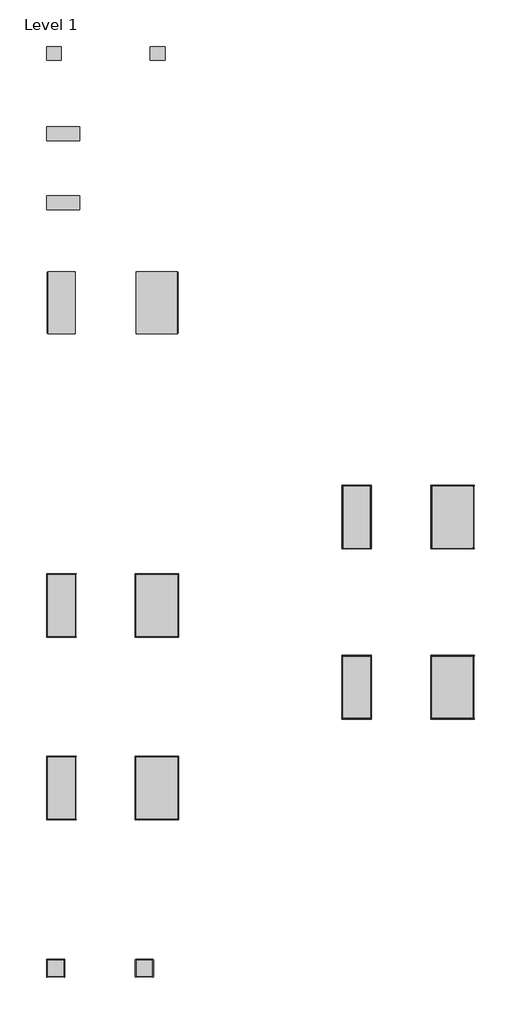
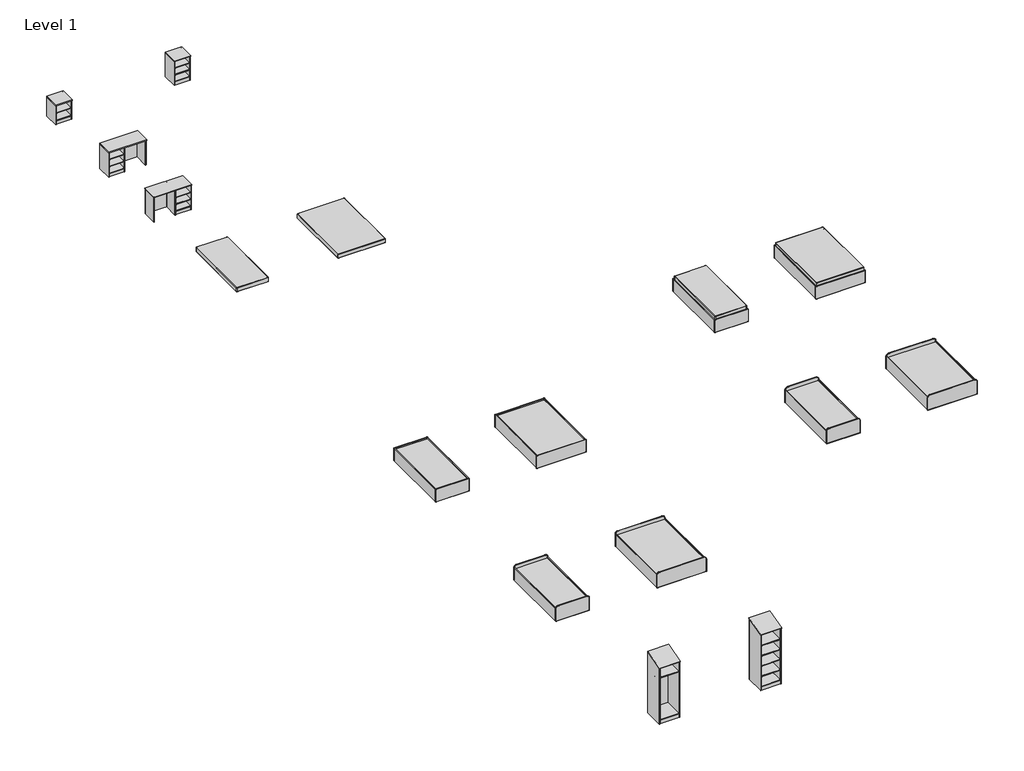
# One storey, incomplete: 18 furniture elements.
"""IFC4 building model written with IfcOpenShell, lengths in millimetres."""

from ifc_helpers import new_model, si_unit, origin, place, context, project, spatial, transform, mapped, element, save
from components import sf36805_100d38df, sf54805_bda6a78f, slc124_b616c2b7, slc130_283974c0, slc330_f4d9fcbc, slc340_fd4518d1, slc410_l_095e2484, slc410_r_ae9c953f, slc500_fc7dbef7, slc550_b5a2f631, slc600_16307067, slc650_620ad227

model = new_model("IFC4")

# Units and contexts
model_context = context("Model", 3, world=origin())
ifc_project = project(units=[si_unit("LENGTHUNIT", "METRE", prefix="MILLI")], contexts=[model_context])

# Site, building, storey
site = spatial("IfcSite", under=ifc_project)
building = spatial("IfcBuilding", under=site)
storey = spatial("IfcBuildingStorey", under=building, Name="Level 1", Elevation=0.0)

# Furniture
placement = place(None, origin())
sf36805_shape = sf36805_100d38df(model_context)
element("IfcFurniture", 1, ObjectType="Stance_HC-Lotus-Matress : SF36805", at=placement, inside=storey, context=model_context, shape_type="MappedRepresentation", body=[
    mapped(sf36805_shape, transform((-9281.3248635, 11472.6720691, 0.0), x_axis=(1.0, 0.0, 0.0), y_axis=(0.0, 1.0, 0.0), z_axis=(0.0, 0.0, 1.0))),
])
element("IfcFurniture", 2, ObjectType="Stance_HC-Lotus-Matress : SF36805", at=placement, inside=storey, context=model_context, shape_type="MappedRepresentation", body=[
    mapped(sf36805_shape, transform((414.4822659, 4441.7491726, 0.0), x_axis=(1.0, 0.0, 0.0), y_axis=(0.0, 1.0, 0.0), z_axis=(0.0, 0.0, 1.0))),
])
sf54805_shape = sf54805_bda6a78f(model_context)
element("IfcFurniture", 3, ObjectType="Stance_HC-Lotus-Matress : SF54805", at=placement, inside=storey, context=model_context, shape_type="MappedRepresentation", body=[
    mapped(sf54805_shape, transform((-6371.2378165, 11472.6720691, 0.0), x_axis=(1.0, 0.0, 0.0), y_axis=(0.0, 1.0, 0.0), z_axis=(0.0, 0.0, 1.0))),
])
element("IfcFurniture", 4, ObjectType="Stance_HC-Lotus-Matress : SF54805", at=placement, inside=storey, context=model_context, shape_type="MappedRepresentation", body=[
    mapped(sf54805_shape, transform((3324.5693129, 4441.7491726, 0.0), x_axis=(1.0, 0.0, 0.0), y_axis=(0.0, 1.0, 0.0), z_axis=(0.0, 0.0, 1.0))),
])
slc124_shape = slc124_b616c2b7(model_context)
element("IfcFurniture", 5, ObjectType="Stance_HC-Lotus-Bedside_Table : SLC124", at=placement, inside=storey, context=model_context, shape_type="MappedRepresentation", body=[
    mapped(slc124_shape, transform((-9309.8998635, 18857.3595563, 0.0), x_axis=(1.0, 0.0, 0.0), y_axis=(0.0, 1.0, 0.0), z_axis=(0.0, 0.0, 1.0))),
])
slc130_shape = slc130_283974c0(model_context)
element("IfcFurniture", 6, ObjectType="Stance_HC-Lotus-Bedside_Table : SLC130", at=placement, inside=storey, context=model_context, shape_type="MappedRepresentation", body=[
    mapped(slc130_shape, transform((-5904.340441, 18857.3595563, 0.0), x_axis=(1.0, 0.0, 0.0), y_axis=(0.0, 1.0, 0.0), z_axis=(0.0, 0.0, 1.0))),
])
slc330_shape = slc330_f4d9fcbc(model_context)
element("IfcFurniture", 7, ObjectType="Stance_HC-Lotus-Wardrobe : SLC330", at=placement, inside=storey, context=model_context, shape_type="MappedRepresentation", body=[
    mapped(slc330_shape, transform((-9309.8998635, -11070.8749753, 0.0), x_axis=(1.0, 0.0, 0.0), y_axis=(0.0, 1.0, 0.0), z_axis=(0.0, 0.0, 1.0))),
])
slc340_shape = slc340_fd4518d1(model_context)
element("IfcFurniture", 8, ObjectType="Stance_HC-Lotus-Wardrobe : SLC340", at=placement, inside=storey, context=model_context, shape_type="MappedRepresentation", body=[
    mapped(slc340_shape, transform((-6399.8128165, -11070.8749753, 0.0), x_axis=(1.0, 0.0, 0.0), y_axis=(0.0, 1.0, 0.0), z_axis=(0.0, 0.0, 1.0))),
])
slc410_l_shape = slc410_l_095e2484(model_context)
element("IfcFurniture", 9, ObjectType="Stance_HC-Lotus-Desk-Shelves_Left : SLC410-L", at=placement, inside=storey, context=model_context, shape_type="MappedRepresentation", body=[
    mapped(slc410_l_shape, transform((-9309.8998635, 16219.7051589, 0.0), x_axis=(1.0, 0.0, 0.0), y_axis=(0.0, 1.0, 0.0), z_axis=(0.0, 0.0, 1.0))),
])
slc410_r_shape = slc410_r_ae9c953f(model_context)
element("IfcFurniture", 10, ObjectType="Stance_HC-Lotus-Desk-Shelves_Right : SLC410-R", at=placement, inside=storey, context=model_context, shape_type="MappedRepresentation", body=[
    mapped(slc410_r_shape, transform((-9309.8998635, 13969.0825641, 0.0), x_axis=(1.0, 0.0, 0.0), y_axis=(0.0, 1.0, 0.0), z_axis=(0.0, 0.0, 1.0))),
])
slc500_shape = slc500_fc7dbef7(model_context)
element("IfcFurniture", 11, ObjectType="Stance_HC-Lotus-Platform_Bed : SLC500", at=placement, inside=storey, context=model_context, shape_type="MappedRepresentation", body=[
    mapped(slc500_shape, transform((-9309.8998635, 1569.90163, 0.0), x_axis=(1.0, 0.0, 0.0), y_axis=(0.0, 1.0, 0.0), z_axis=(0.0, 0.0, 1.0))),
])
element("IfcFurniture", 12, ObjectType="Stance_HC-Lotus-Platform_Bed : SLC500", at=placement, inside=storey, context=model_context, shape_type="MappedRepresentation", body=[
    mapped(slc500_shape, transform((385.9072659, 4467.1491726, 0.0), x_axis=(1.0, 0.0, 0.0), y_axis=(0.0, 1.0, 0.0), z_axis=(0.0, 0.0, 1.0))),
])
slc550_shape = slc550_b5a2f631(model_context)
element("IfcFurniture", 13, ObjectType="Stance_HC-Lotus-Platform_Bed-Rounded_Corners : SLC550", at=placement, inside=storey, context=model_context, shape_type="MappedRepresentation", body=[
    mapped(slc550_shape, transform((-9309.8998635, -4411.7748049, 0.0), x_axis=(1.0, 0.0, 0.0), y_axis=(0.0, 1.0, 0.0), z_axis=(0.0, 0.0, 1.0))),
])
element("IfcFurniture", 14, ObjectType="Stance_HC-Lotus-Platform_Bed-Rounded_Corners : SLC550", at=placement, inside=storey, context=model_context, shape_type="MappedRepresentation", body=[
    mapped(slc550_shape, transform((385.9072659, -1108.1272623, 0.0), x_axis=(1.0, 0.0, 0.0), y_axis=(0.0, 1.0, 0.0), z_axis=(0.0, 0.0, 1.0))),
])
slc600_shape = slc600_16307067(model_context)
element("IfcFurniture", 15, ObjectType="Stance_HC-Lotus-Platform_Bed : SLC600", at=placement, inside=storey, context=model_context, shape_type="MappedRepresentation", body=[
    mapped(slc600_shape, transform((-6399.8128165, 1569.90163, 0.0), x_axis=(1.0, 0.0, 0.0), y_axis=(0.0, 1.0, 0.0), z_axis=(0.0, 0.0, 1.0))),
])
element("IfcFurniture", 16, ObjectType="Stance_HC-Lotus-Platform_Bed : SLC600", at=placement, inside=storey, context=model_context, shape_type="MappedRepresentation", body=[
    mapped(slc600_shape, transform((3295.9943129, 4467.1491726, 0.0), x_axis=(1.0, 0.0, 0.0), y_axis=(0.0, 1.0, 0.0), z_axis=(0.0, 0.0, 1.0))),
])
slc650_shape = slc650_620ad227(model_context)
element("IfcFurniture", 17, ObjectType="Stance_HC-Lotus-Platform_Bed-Rounded_Corners : SLC650", at=placement, inside=storey, context=model_context, shape_type="MappedRepresentation", body=[
    mapped(slc650_shape, transform((-6399.8128165, -4411.7748049, 0.0), x_axis=(1.0, 0.0, 0.0), y_axis=(0.0, 1.0, 0.0), z_axis=(0.0, 0.0, 1.0))),
])
element("IfcFurniture", 18, ObjectType="Stance_HC-Lotus-Platform_Bed-Rounded_Corners : SLC650", at=placement, inside=storey, context=model_context, shape_type="MappedRepresentation", body=[
    mapped(slc650_shape, transform((3295.9943129, -1108.1272623, 0.0), x_axis=(1.0, 0.0, 0.0), y_axis=(0.0, 1.0, 0.0), z_axis=(0.0, 0.0, 1.0))),
])

save(model, "model.ifc")
